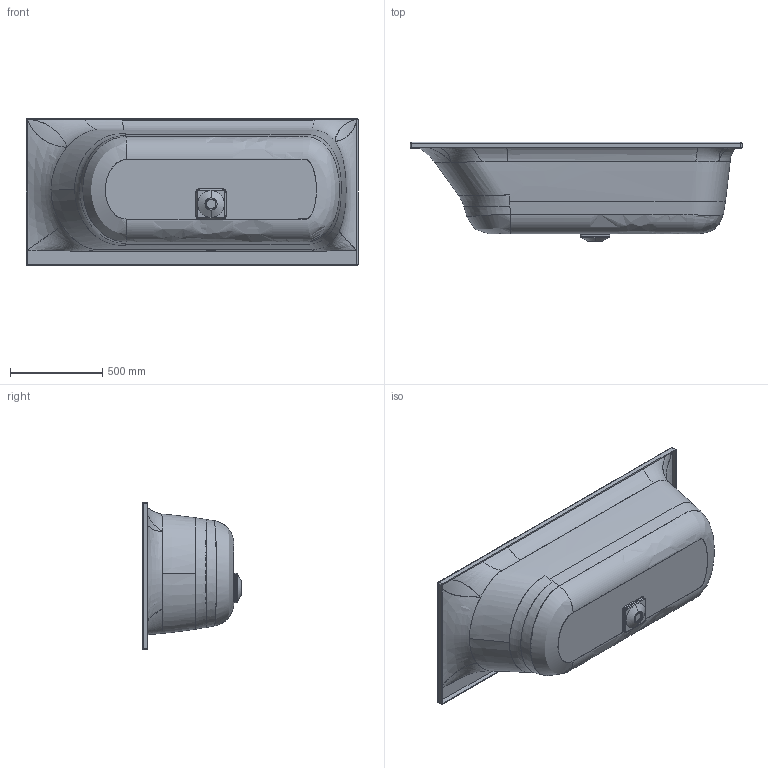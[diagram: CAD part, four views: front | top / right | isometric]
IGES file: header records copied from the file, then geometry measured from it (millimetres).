
Start section: SolidWorks IGES file using analytic representation for surfaces
Global section: file name: D:\Users\M.Szymanski\Desktop\Wanny\Thasos\03. do przegrania\WP_THASOS_80x180.IGS; native system: SolidWorks 2011; preprocessor: SolidWorks 2011; author: M.Szymanski; date: 180427.124428; units: millimetre
Bounding box: 1800 x 539 x 800 mm (x, y, z)
Surface area: 5981370.3 mm2 (no closed solid volume)
Topology: 0 solids, 0 shells, 230 faces, 5242 edges, 5229 vertices
Faces by surface type: bspline 178, revolution 52
